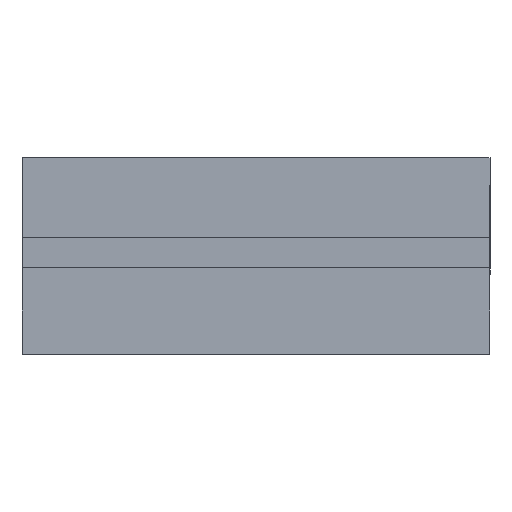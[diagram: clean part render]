
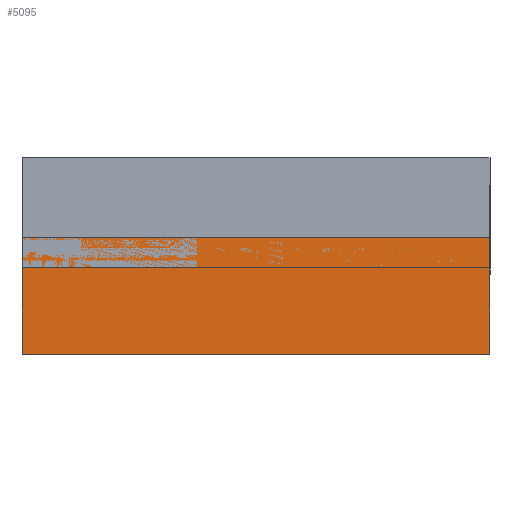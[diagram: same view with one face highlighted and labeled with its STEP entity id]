
A CAD part, left-side view. The second image highlights one B-rep face of the part: STEP entity #5095.
In plain terms, the highlighted planar face has unit normal (-1, 0, 0).
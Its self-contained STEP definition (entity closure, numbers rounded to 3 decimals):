
#2 = VERTEX_POINT ( 'NONE', #3686 ) ;
#301 = CARTESIAN_POINT ( 'NONE',  ( -60., 60., -32.488 ) ) ;
#622 = ORIENTED_EDGE ( 'NONE', *, *, #5728, .T. ) ;
#648 = EDGE_CURVE ( 'NONE', #3241, #6051, #6556, .T. ) ;
#668 = CARTESIAN_POINT ( 'NONE',  ( -60., 60., -32.488 ) ) ;
#700 = ORIENTED_EDGE ( 'NONE', *, *, #648, .T. ) ;
#732 = ORIENTED_EDGE ( 'NONE', *, *, #2239, .F. ) ;
#815 = ORIENTED_EDGE ( 'NONE', *, *, #1069, .F. ) ;
#1069 = EDGE_CURVE ( 'NONE', #3475, #6051, #1101, .T. ) ;
#1101 = LINE ( 'NONE', #3298, #6769 ) ;
#1596 = CARTESIAN_POINT ( 'NONE',  ( -60., 60., -2.488 ) ) ;
#1658 = DIRECTION ( 'NONE',  ( 0., 0., 1. ) ) ;
#2239 = EDGE_CURVE ( 'NONE', #2, #3475, #5256, .T. ) ;
#2278 = CARTESIAN_POINT ( 'NONE',  ( -60., -60., -2.488 ) ) ;
#2513 = DIRECTION ( 'NONE',  ( 0., 1., 0. ) ) ;
#2794 = VECTOR ( 'NONE', #1658, 1000. ) ;
#2869 = DIRECTION ( 'NONE',  ( 1., 0., 0. ) ) ;
#3241 = VERTEX_POINT ( 'NONE', #2278 ) ;
#3298 = CARTESIAN_POINT ( 'NONE',  ( -60., 60., -32.488 ) ) ;
#3374 = AXIS2_PLACEMENT_3D ( 'NONE', #668, #2869, #5071 ) ;
#3417 = FACE_OUTER_BOUND ( 'NONE', #4718, .T. ) ;
#3475 = VERTEX_POINT ( 'NONE', #7125 ) ;
#3644 = VECTOR ( 'NONE', #2513, 1000. ) ;
#3686 = CARTESIAN_POINT ( 'NONE',  ( -60., -60., -32.488 ) ) ;
#3823 = DIRECTION ( 'NONE',  ( 0., 1., 0. ) ) ;
#3968 = VECTOR ( 'NONE', #3823, 1000. ) ;
#4430 = LINE ( 'NONE', #6619, #2794 ) ;
#4718 = EDGE_LOOP ( 'NONE', ( #700, #815, #732, #622 ) ) ;
#5071 = DIRECTION ( 'NONE',  ( 0., 1., 0. ) ) ;
#5095 = ADVANCED_FACE ( 'NONE', ( #3417 ), #5614, .F. ) ;
#5256 = LINE ( 'NONE', #301, #3644 ) ;
#5502 = DIRECTION ( 'NONE',  ( 0., 0., 1. ) ) ;
#5614 = PLANE ( 'NONE',  #3374 ) ;
#5728 = EDGE_CURVE ( 'NONE', #2, #3241, #4430, .T. ) ;
#6051 = VERTEX_POINT ( 'NONE', #6231 ) ;
#6231 = CARTESIAN_POINT ( 'NONE',  ( -60., 60., -2.488 ) ) ;
#6556 = LINE ( 'NONE', #1596, #3968 ) ;
#6619 = CARTESIAN_POINT ( 'NONE',  ( -60., -60., -32.488 ) ) ;
#6769 = VECTOR ( 'NONE', #5502, 1000. ) ;
#7125 = CARTESIAN_POINT ( 'NONE',  ( -60., 60., -32.488 ) ) ;
